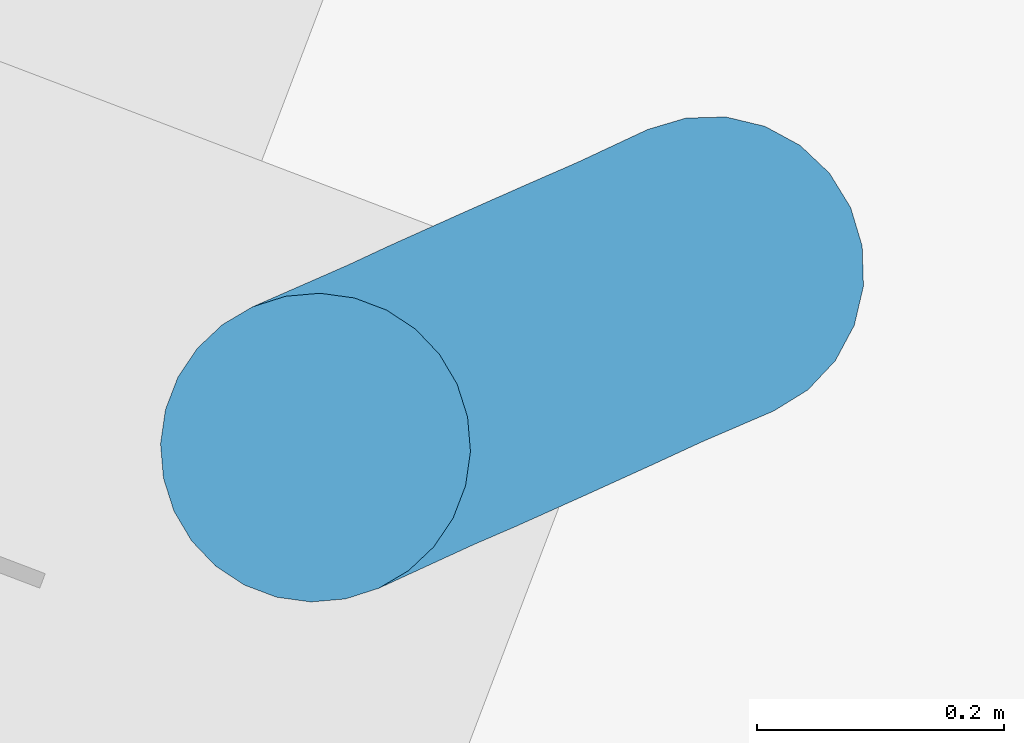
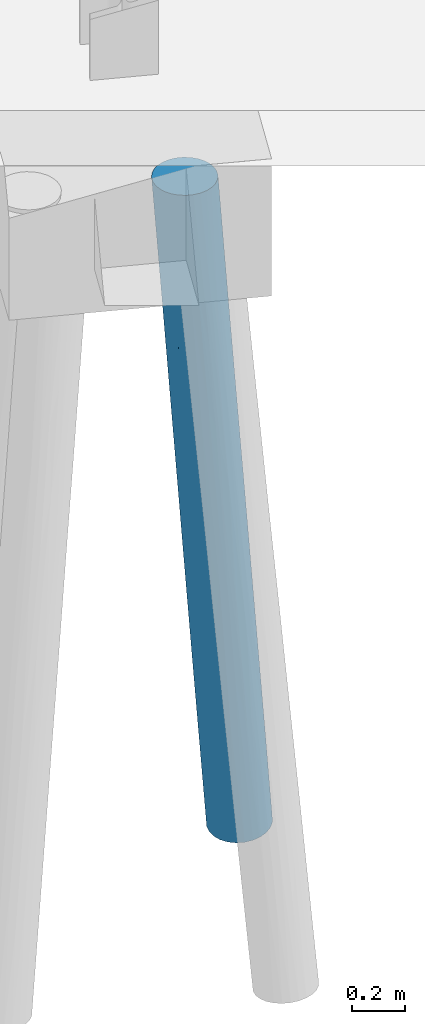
# One storey, part 23 of 46: 1 pile.
"""IFC2X3 building model written with IfcOpenShell, lengths in millimetres."""

from ifc_helpers import new_model, entity, si_unit, converted_unit, derived_unit, direction, frame, origin, place, context, subcontext, project, spatial, faceted_brep, source, transform, mapped, material, type_object, type_shapes, element, save


model = new_model("IFC2X3")

# Units and contexts
model_context = context("Model", 3, precision=0.01, world=origin(), true_north=direction((6.123233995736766e-17, 1.0)))
body_context = subcontext(model_context, "Body", "Model", "MODEL_VIEW")
ifc_project = project(units=[si_unit("LENGTHUNIT", "METRE", prefix="MILLI"), converted_unit("PLANEANGLEUNIT", "DEGREE", entity("IfcPlaneAngleMeasure", 0.017453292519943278), si_unit("PLANEANGLEUNIT", "RADIAN"), dimensions=[0, 0, 0, 0, 0, 0, 0]), si_unit("AREAUNIT", "SQUARE_METRE"), derived_unit("THERMALTRANSMITTANCEUNIT", [(si_unit("MASSUNIT", "GRAM", prefix="KILO"), 1), (si_unit("THERMODYNAMICTEMPERATUREUNIT", "KELVIN"), -1), (si_unit("TIMEUNIT", "SECOND"), -3)])], contexts=[model_context])

# Site, building, storey
site_placement = place(None, frame((-72937.88054949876, 11621.45624098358, 0.0), z_axis=(0.0, 0.0, 1.0), x_axis=(0.9346418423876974, -0.35559053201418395, 0.0)))
site = spatial("IfcSite", under=ifc_project, at=site_placement, Name="Default", CompositionType="ELEMENT")
building_placement = place(site_placement, origin())
building = spatial("IfcBuilding", under=site, at=building_placement, CompositionType="ELEMENT")
storey_placement = place(building_placement, origin())
storey = spatial("IfcBuildingStorey", under=building, at=storey_placement, Name="00 begane grond", CompositionType="ELEMENT", Elevation=0.0)

# Pile
ifc_material = material(Name="beton_gewapend_prefab-element_c45/55")
type_product = type_object("IfcTypeProduct", Name="Type 01", material=ifc_material)
shared_shape = source(origin(), body_context, "Body", "Brep", [
    faceted_brep([(50.02983679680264, 41.219149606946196, -1478.3429510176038), (41.770052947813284, 0.0, -1615.992665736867), (-21.492869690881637, 34.07967924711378, -2142.478153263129), (-196.51418126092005, 41.35907440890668, -1560.459568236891), (-209.7685117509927, 0.0, -1615.993463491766), (-120.39371842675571, 27.815116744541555, -840.0), (-105.46135978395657, 105.60554685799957, -2414.744852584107), (-29.01608810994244, 89.9027707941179, -1907.5825387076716), (-88.8773638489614, 91.39060439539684, -2432.143714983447), (44.04069234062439, 66.4881713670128, -1422.150587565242), (100.55257203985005, 77.93622523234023, -840.0), (115.53639022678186, 54.235467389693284, -840.0), (-181.63351961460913, 47.83542906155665, -3540.4622999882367), (-228.8866429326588, 32.35238063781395, -4013.333582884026), (-241.29781855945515, 62.499999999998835, -4011.9545633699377), (124.838162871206, 27.815116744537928, -840.0), (127.99146025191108, 0.0, -840.0), (80.6380595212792, 97.7289353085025, -840.0), (-1.0422673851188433, 115.29700921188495, -1306.6345347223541), (56.79144948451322, 112.62110848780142, -840.0), (-82.66188090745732, 124.23733970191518, -1479.1096584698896), (-119.59016639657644, 124.77532272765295, -1868.4753366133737), (-148.0004270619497, 121.55050259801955, -1927.9224619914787), (-25.764066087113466, 121.86598902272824, -840.0), (2.2222222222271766, 125.0, -840.0), (35.238837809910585, 88.30507823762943, -1343.9943162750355), (30.208510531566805, 121.86598902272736, -840.0), (-38.42848163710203, 123.4640225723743, -1382.7576650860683), (-59.298226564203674, 117.91120533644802, -1769.4495348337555), (-121.64165871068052, 118.88184081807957, -2304.5646505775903), (-105.46067851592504, 124.17311504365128, -1939.1271630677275), (-181.54271840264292, 0.0, -3625.807607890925), (-224.65342205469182, 0.0, -4013.803940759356), (-186.42266103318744, 99.1691675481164, -3226.87509877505), (-111.16783038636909, 79.40373738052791, -2734.7208670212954), (-187.86059930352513, 76.09517863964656, -3448.7603995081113), (-294.2594631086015, 123.9306076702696, -3360.5895502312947), (-348.8888888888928, 125.0, -4000.0), (-381.04339378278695, 120.74072828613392, -3996.4272772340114), (-71.50265177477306, 37.61355729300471, -2582.985799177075), (-105.1394697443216, 22.11026756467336, -2920.330251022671), (-119.53291308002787, 47.835429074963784, -2981.5568411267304), (-160.26870491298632, 23.53094104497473, -3414.1045295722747), (-238.88036705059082, 115.48494156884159, -3443.09153660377), (-286.7711554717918, 108.25317547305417, -4006.901970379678), (-261.04114782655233, 88.38834764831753, -4009.7608601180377), (-316.7343839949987, 120.74072828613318, -4003.5727227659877), (-61.65923548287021, 74.64816535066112, -2322.8523974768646), (-84.00174733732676, 60.02171841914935, -2608.908596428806), (-151.97718420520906, 123.99260475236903, -2371.21148137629), (-173.2739820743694, 115.31995815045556, -2856.223431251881), (-123.54701580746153, 0.0, -840.0), (-295.99000769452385, 0.0, -2391.9869269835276), (-250.82857575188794, 22.617884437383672, -2004.2180489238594), (-107.44397040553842, 105.89787173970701, -1225.6035634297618), (-76.19361507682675, 97.72893530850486, -840.0), (-52.347005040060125, 112.6211084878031, -840.0), (-281.4812245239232, 123.93060767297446, -3541.076638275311), (-109.06614769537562, 117.57336724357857, -1457.2474766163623), (-111.0919457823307, 54.235467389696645, -840.0), (-15.85514051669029, 105.72630914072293, -1606.5585830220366), (-158.7756678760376, 105.96661342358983, -1688.5825591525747), (-146.68659472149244, 88.47759853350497, -1380.5978408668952), (-404.9818286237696, 23.95962394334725, -3393.901362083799), (-384.5571817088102, 0.0, -3189.0914931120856), (-348.5966640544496, 22.310072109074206, -2883.6216315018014), (-456.47995921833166, 62.500000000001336, -3988.0454366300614), (-468.89113484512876, 32.35238063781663, -3986.6664171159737), (-416.28748070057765, 47.83542904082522, -3560.8267027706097), (-337.6622645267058, 115.48494156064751, -3465.7921474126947), (-411.00662230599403, 108.25317547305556, -3993.0980296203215), (-204.57839676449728, 89.69967503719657, -1912.868459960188), (-241.9682357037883, 100.09571921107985, -2359.71747411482), (-255.69185443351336, 84.13968982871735, -2324.129304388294), (-96.10812759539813, 77.93622523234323, -840.0), (-377.92930595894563, 99.16916753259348, -3572.292603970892), (-436.73662995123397, 88.38834764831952, -3990.239139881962), (-206.9618348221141, 60.37792335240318, -1731.5361763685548), (-296.17437932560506, 43.53585544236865, -2464.5182361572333), (-358.4295495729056, 47.83542903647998, -3040.1053226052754), (-379.61635653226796, 76.09517861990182, -3378.5322028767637), (-430.0136077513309, 0.0, -3598.1993274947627), (-306.3551153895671, 77.61365432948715, -2729.901333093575), (-213.4617402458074, 118.14633713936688, -2411.4959163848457), (-159.2186646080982, 65.41382269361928, -1328.4086999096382), (-67.97340634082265, 109.92592992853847, -2010.6352011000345), (-179.43548008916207, 124.76102802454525, -2404.960456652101), (-13.219750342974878, 66.34050229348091, -1938.3332116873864), (-236.1740964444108, 124.51562049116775, -2886.015168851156), (-270.1086403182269, 119.49229851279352, -2958.6820679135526), (-268.3059733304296, 110.2317272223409, -2741.026078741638), (-320.7170568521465, 99.16916752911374, -3057.382361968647), (-473.12435572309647, 0.0, -3986.1960592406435), (-138.91569201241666, 99.37675608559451, -2796.855638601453), (-220.46267944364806, 123.93060767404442, -2991.909732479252), (-44.45135435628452, 0.0, -2391.9853314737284), (-247.1590829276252, 66.69543969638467, -2127.0964328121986), (-134.55238820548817, 0.0, -3202.8946361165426), (-89.50217198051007, 0.0, -2797.442690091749), (-340.273594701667, 0.0, -2790.5392100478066), (-303.09738986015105, 21.900839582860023, -2473.462328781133), (-246.59414544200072, 45.758522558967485, -2025.9931784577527), (-120.39371842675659, -27.815116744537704, -840.0), (-111.09194578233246, -54.23546738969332, -840.0), (-96.1081275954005, -77.93622523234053, -840.0), (-76.19361507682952, -97.72893530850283, -840.0), (-52.3470050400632, -112.62110848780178, -840.0), (-25.764066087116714, -121.86598902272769, -840.0), (2.22222222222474, -125.0, -840.0), (30.20851053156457, -121.86598902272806, -840.0), (56.7914494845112, -112.62110848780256, -840.0), (80.63805952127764, -97.72893530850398, -840.0), (100.55257203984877, -77.93622523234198, -840.0), (115.53639022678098, -54.23546738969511, -840.0), (124.83816287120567, -27.815116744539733, -840.0), (-241.96823566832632, -100.09571920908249, -2359.717473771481), (-268.30597321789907, -110.23172722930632, -2741.026077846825), (-213.46174017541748, -118.14633716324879, -2411.4959163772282), (-187.1422997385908, -67.5957584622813, -1592.1374826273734), (-196.5141812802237, -41.359074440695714, -1560.4595685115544), (-82.66188086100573, -124.2373397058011, -1479.1096583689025), (-13.219750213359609, -66.3405022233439, -1938.3332109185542), (35.23883807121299, -88.30507821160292, -1343.9943141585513), (-29.016087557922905, -89.90277069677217, -1907.5825346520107), (-109.06614766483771, -117.57336725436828, -1457.2474766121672), (-294.2594631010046, -123.93060767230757, -3360.5895503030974), (-337.66226453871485, -115.48494156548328, -3465.7921476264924), (-381.04339378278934, -120.74072828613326, -3996.4272772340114), (-320.717056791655, -99.16916754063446, -3057.382361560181), (-379.61635651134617, -76.09517863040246, -3378.53220276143), (-377.9293059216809, -99.16916753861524, -3572.292603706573), (-186.42266103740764, -99.16916753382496, -3226.875098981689), (-238.88036707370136, -115.48494156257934, -3443.0915369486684), (-286.77115547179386, -108.25317547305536, -4006.901970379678), (-228.88664293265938, -32.352380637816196, -4013.333582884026), (-181.63351956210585, -47.835429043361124, -3540.4622995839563), (-241.29781855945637, -62.50000000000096, -4011.9545633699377), (-107.44397039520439, -105.89787175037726, -1225.6035634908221), (-38.428481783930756, -123.46402262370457, -1382.7576634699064), (-468.89113484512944, -32.35238063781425, -3986.6664171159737), (-138.91569233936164, -99.37675620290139, -2796.855640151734), (-173.2739821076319, -115.31995832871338, -2856.223427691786), (-160.26870486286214, -23.530941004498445, -3414.104529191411), (-187.86059935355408, -76.09517862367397, -3448.760400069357), (-261.041147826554, -88.38834764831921, -4009.7608601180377), (-306.3551154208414, -77.61365434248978, -2729.901333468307), (-348.8888888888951, -125.0, -4000.0), (-416.2874806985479, -47.83542904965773, -3560.826702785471), (-456.47995921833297, -62.49999999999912, -3988.0454366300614), (-436.7366299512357, -88.38834764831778, -3990.239139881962), (-411.0066223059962, -108.25317547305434, -3993.0980296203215), (-71.50265159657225, -37.613557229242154, -2582.9857977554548), (-21.492869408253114, -34.07967918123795, -2142.4781508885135), (-84.00174724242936, -60.02171839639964, -2608.9085956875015), (-281.4812244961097, -123.9306076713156, -3541.076638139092), (-220.46267940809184, -123.93060767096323, -2991.9097323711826), (-158.7756678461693, -105.9666134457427, -1688.5825592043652), (-148.00042700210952, -121.5505026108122, -1927.922461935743), (-1.0422669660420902, -115.29700910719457, -1306.6345332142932), (-59.298225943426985, -117.91120535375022, -1769.4495288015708), (-15.85514048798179, -105.72630911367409, -1606.5585831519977), (-270.1086403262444, -119.4922985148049, -2958.682068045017), (50.02983688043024, -41.21914955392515, -1478.342950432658), (-146.6865947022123, -88.47759855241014, -1380.5978408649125), (-296.1743793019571, -43.53585546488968, -2464.5182360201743), (-348.59666404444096, -22.310072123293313, -2883.6216314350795), (-358.42954957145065, -47.83542905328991, -3040.1053226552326), (57.21126448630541, -65.80573689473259, -1307.4694469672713), (-67.97340649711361, -109.92593000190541, -2010.6352012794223), (-121.64165783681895, -118.88184074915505, -2304.564644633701), (-105.13946990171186, -22.110267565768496, -2920.330252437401), (-179.43547996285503, -124.76102802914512, -2404.960456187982), (-316.73438399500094, -120.7407282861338, -4003.5727227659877), (-119.53291301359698, -47.8354290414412, -2981.5568406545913), (-250.82857577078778, -22.61788446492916, -2004.218049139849), (-404.98182862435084, -23.95962395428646, -3393.901362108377), (-61.65923550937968, -74.64816548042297, -2322.852396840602), (-243.17628094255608, -45.971171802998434, -1995.9919190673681), (-105.46135971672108, -105.60554680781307, -2414.7448526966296), (-111.16783063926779, -79.40373735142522, -2734.7208695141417), (-119.59016630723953, -124.77532273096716, -1868.4753363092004), (-236.1740963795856, -124.51562049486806, -2886.0151686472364), (-204.57839665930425, -89.69967507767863, -1912.868459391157), (-247.15908295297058, -66.69543974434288, -2127.09643331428), (-88.87736442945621, -91.39060438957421, -2432.1437202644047), (-255.69185439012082, -84.13968979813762, -2324.1293037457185), (-105.46067843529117, -124.17311503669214, -1939.1271628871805), (-168.17815851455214, -123.85607816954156, -2526.387901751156), (-303.0973898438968, -21.90083960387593, -2473.4623286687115)], [[[0, 1, 2]], [[3, 4, 5]], [[6, 7, 8]], [[9, 10, 11]], [[12, 13, 14]], [[15, 16, 1]], [[17, 18, 19]], [[20, 21, 22]], [[23, 24, 20]], [[25, 17, 10]], [[26, 18, 27]], [[27, 20, 24]], [[28, 29, 30]], [[31, 32, 13]], [[33, 34, 35]], [[36, 37, 38]], [[39, 40, 41]], [[41, 42, 12]], [[43, 33, 44]], [[45, 33, 35]], [[46, 43, 44]], [[34, 47, 48]], [[49, 29, 50]], [[4, 51, 5]], [[30, 27, 28]], [[52, 4, 53]], [[54, 55, 56]], [[37, 36, 57]], [[56, 23, 58]], [[46, 37, 57]], [[59, 3, 5]], [[11, 15, 0]], [[3, 53, 4]], [[7, 60, 25]], [[44, 33, 45]], [[54, 61, 62]], [[63, 64, 65]], [[66, 67, 68]], [[36, 38, 69]], [[70, 69, 38]], [[71, 72, 73]], [[74, 55, 62]], [[75, 70, 76]], [[71, 77, 62]], [[78, 79, 65]], [[80, 75, 76]], [[63, 81, 64]], [[82, 80, 79]], [[66, 80, 76]], [[61, 83, 72]], [[59, 84, 3]], [[85, 6, 29]], [[25, 10, 9]], [[86, 21, 30]], [[35, 14, 45]], [[33, 43, 50]], [[54, 56, 58]], [[22, 58, 20]], [[87, 0, 2]], [[0, 15, 1]], [[83, 86, 88]], [[40, 42, 41]], [[89, 69, 90]], [[84, 59, 74]], [[72, 71, 61]], [[91, 80, 82]], [[79, 80, 68]], [[14, 35, 12]], [[92, 81, 67]], [[41, 35, 34]], [[48, 39, 41]], [[93, 8, 34]], [[50, 93, 33]], [[94, 43, 57]], [[36, 69, 89]], [[91, 69, 75]], [[48, 41, 34]], [[95, 2, 1]], [[91, 82, 72]], [[78, 96, 82]], [[90, 91, 72]], [[71, 62, 61]], [[13, 42, 31]], [[41, 12, 35]], [[46, 57, 43]], [[94, 57, 36]], [[97, 31, 42]], [[40, 97, 42]], [[12, 42, 13]], [[98, 97, 40, 95]], [[2, 95, 39]], [[55, 54, 62]], [[61, 54, 58]], [[83, 61, 22]], [[20, 58, 23]], [[58, 22, 61]], [[86, 83, 22]], [[88, 89, 83]], [[29, 49, 30]], [[88, 36, 89]], [[83, 89, 90]], [[40, 39, 95]], [[87, 2, 48]], [[39, 48, 2]], [[87, 48, 47]], [[87, 47, 7]], [[47, 34, 8]], [[9, 0, 87]], [[85, 60, 7]], [[17, 25, 60]], [[87, 7, 9]], [[47, 8, 7]], [[6, 8, 93]], [[50, 6, 93]], [[33, 93, 34]], [[6, 50, 29]], [[50, 43, 94]], [[60, 85, 28]], [[49, 86, 30]], [[60, 28, 18]], [[28, 27, 18]], [[26, 27, 24]], [[20, 27, 21]], [[60, 18, 17]], [[26, 19, 18]], [[84, 62, 77]], [[82, 96, 73]], [[83, 90, 72]], [[91, 90, 69]], [[88, 94, 36]], [[94, 88, 49]], [[66, 68, 80]], [[68, 67, 63]], [[63, 65, 79]], [[81, 63, 67]], [[68, 63, 79]], [[78, 82, 79]], [[65, 99, 100]], [[53, 101, 78]], [[78, 65, 100]], [[70, 75, 69]], [[91, 75, 80]], [[71, 73, 96]], [[73, 72, 82]], [[28, 85, 29]], [[6, 85, 7]], [[52, 53, 100]], [[96, 78, 101]], [[3, 84, 77]], [[62, 84, 74]], [[22, 21, 86]], [[30, 21, 27]], [[0, 9, 11]], [[25, 9, 7]], [[86, 49, 88]], [[94, 49, 50]], [[78, 100, 53]], [[65, 64, 99]], [[52, 100, 99]], [[96, 101, 77]], [[101, 53, 3]], [[3, 77, 101]], [[96, 77, 71]], [[56, 55, 74, 59, 5, 51, 102, 103, 104, 105, 106, 107, 108, 109, 110, 111, 112, 113, 114, 16, 15, 11, 10, 17, 19, 26, 24, 23]], [[4, 102, 51]], [[115, 116, 117]], [[104, 103, 118]], [[103, 102, 119]], [[108, 107, 120]], [[121, 122, 123]], [[107, 124, 120]], [[125, 126, 127]], [[128, 129, 130]], [[131, 132, 133]], [[134, 135, 136]], [[106, 105, 137]], [[109, 108, 138]], [[81, 92, 139]], [[131, 140, 141]], [[31, 97, 142]], [[143, 131, 144]], [[145, 129, 128]], [[125, 127, 146]], [[147, 139, 148]], [[130, 149, 150]], [[151, 152, 153]], [[125, 154, 155]], [[156, 157, 124]], [[158, 159, 160]], [[119, 102, 4]], [[110, 109, 158]], [[126, 125, 161]], [[162, 114, 113]], [[111, 158, 160]], [[163, 137, 105]], [[164, 165, 166]], [[122, 112, 111]], [[1, 16, 114]], [[162, 113, 167]], [[122, 121, 167]], [[168, 159, 169]], [[142, 97, 170]], [[171, 157, 117]], [[146, 172, 154]], [[104, 118, 163]], [[160, 159, 168]], [[104, 163, 105]], [[131, 133, 144]], [[115, 145, 128]], [[143, 144, 136]], [[152, 162, 121]], [[148, 149, 129]], [[151, 153, 173]], [[4, 174, 119]], [[166, 175, 147]], [[176, 121, 123]], [[177, 174, 164]], [[178, 169, 141]], [[132, 172, 133]], [[173, 179, 143]], [[180, 157, 171]], [[137, 156, 124]], [[162, 1, 114]], [[95, 1, 152]], [[126, 150, 127]], [[32, 31, 134]], [[161, 181, 117]], [[115, 156, 182]], [[177, 183, 118]], [[148, 129, 147]], [[145, 164, 166]], [[172, 132, 154]], [[165, 175, 166]], [[178, 141, 140]], [[131, 143, 179]], [[173, 143, 135]], [[140, 184, 178]], [[121, 176, 153]], [[150, 126, 130]], [[117, 116, 161]], [[162, 152, 1]], [[151, 170, 95]], [[129, 145, 166]], [[182, 156, 163]], [[182, 183, 185]], [[156, 115, 117]], [[136, 135, 143]], [[135, 134, 142]], [[146, 154, 125]], [[155, 154, 132]], [[142, 170, 173]], [[31, 142, 134]], [[135, 142, 173]], [[173, 170, 151]], [[98, 95, 170, 97]], [[124, 107, 106]], [[156, 137, 163]], [[106, 137, 124]], [[120, 124, 157]], [[120, 157, 180]], [[117, 157, 156]], [[169, 186, 187]], [[125, 181, 161]], [[128, 126, 116]], [[171, 117, 181]], [[153, 179, 173]], [[152, 151, 95]], [[179, 153, 176]], [[121, 153, 152]], [[176, 184, 179]], [[123, 168, 178]], [[184, 176, 123]], [[122, 111, 160]], [[112, 167, 113]], [[123, 122, 160]], [[131, 179, 140]], [[178, 184, 123]], [[184, 140, 179]], [[132, 131, 141]], [[141, 155, 132]], [[155, 187, 181]], [[155, 141, 187]], [[159, 186, 169]], [[186, 159, 138]], [[138, 158, 109]], [[186, 138, 180]], [[120, 138, 108]], [[159, 158, 138]], [[110, 158, 111]], [[115, 182, 185]], [[183, 182, 118]], [[161, 116, 126]], [[128, 116, 115]], [[171, 181, 187]], [[181, 125, 155]], [[139, 175, 81]], [[166, 147, 129]], [[64, 81, 175]], [[165, 64, 175]], [[147, 175, 139]], [[99, 64, 165]], [[145, 183, 164]], [[164, 188, 165]], [[4, 52, 174]], [[149, 130, 129]], [[128, 130, 126]], [[185, 145, 115]], [[145, 185, 183]], [[160, 168, 123]], [[178, 168, 169]], [[119, 174, 177]], [[164, 174, 188]], [[119, 118, 103]], [[163, 118, 182]], [[120, 180, 138]], [[186, 180, 171]], [[162, 167, 121]], [[122, 167, 112]], [[171, 187, 186]], [[169, 187, 141]], [[165, 188, 99]], [[52, 99, 188]], [[52, 188, 174]], [[119, 177, 118]], [[183, 177, 164]], [[127, 150, 149, 148, 139, 92, 67, 66, 76, 70, 38, 37, 46, 44, 45, 14, 13, 32, 134, 136, 144, 133, 172, 146]]]),
])
type_shapes(type_product, [shared_shape])
pile_placement = place(storey_placement, frame((62600.0, 22180.0, 0.0), z_axis=(0.0, 0.0, 1.0), x_axis=(-0.7071067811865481, -0.707106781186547, 0.0)))
element("IfcPile", 1, at=pile_placement, inside=storey, type_object=type_product, material=ifc_material, Name="17.21_Prefab funderingspaal rond", ObjectType="prefab paal rond", PredefinedType="NOTDEFINED", context=body_context, shape_type="MappedRepresentation", body=[
    mapped(shared_shape, transform((0.0, 0.0, 0.0), scale=1.0)),
])

save(model, "model.ifc")
